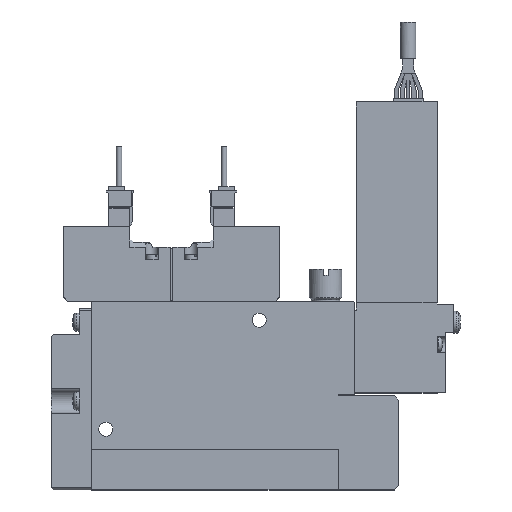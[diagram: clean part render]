
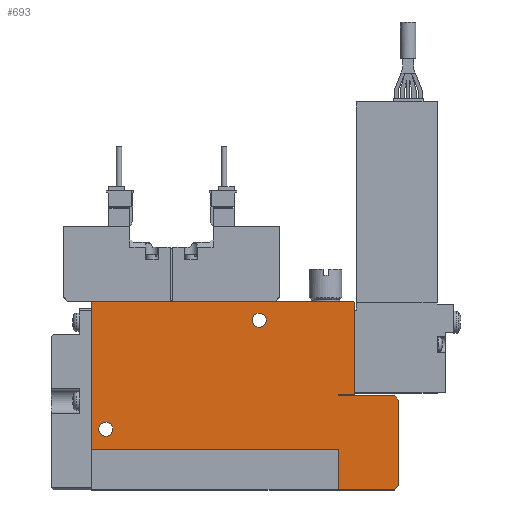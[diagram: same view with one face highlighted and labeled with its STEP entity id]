
A CAD part, top view. The second image highlights one B-rep face of the part: STEP entity #693.
In plain terms, the highlighted planar face has unit normal (0, 0, 1).
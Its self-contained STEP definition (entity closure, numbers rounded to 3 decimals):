
#693=ADVANCED_FACE('',(#1550,#1551,#1552),#1553,.F.);
#1550=FACE_OUTER_BOUND('',#2488,.T.);
#1551=FACE_BOUND('',#2489,.T.);
#1552=FACE_BOUND('',#2490,.T.);
#1553=PLANE('',#2491);
#2488=EDGE_LOOP('',(#5650,#5651,#5652,#5653,#5654,#5655,#5656,#5657,#5658,#5659,#5660,#5661,#5662,#5663));
#2489=EDGE_LOOP('',(#5664));
#2490=EDGE_LOOP('',(#5665));
#2491=AXIS2_PLACEMENT_3D('',#5666,#5667,#5668);
#5650=ORIENTED_EDGE('',*,*,#7099,.T.);
#5651=ORIENTED_EDGE('',*,*,#7048,.F.);
#5652=ORIENTED_EDGE('',*,*,#7030,.F.);
#5653=ORIENTED_EDGE('',*,*,#7102,.T.);
#5654=ORIENTED_EDGE('',*,*,#7066,.T.);
#5655=ORIENTED_EDGE('',*,*,#7009,.T.);
#5656=ORIENTED_EDGE('',*,*,#7103,.T.);
#5657=ORIENTED_EDGE('',*,*,#7063,.T.);
#5658=ORIENTED_EDGE('',*,*,#7072,.T.);
#5659=ORIENTED_EDGE('',*,*,#7074,.T.);
#5660=ORIENTED_EDGE('',*,*,#7013,.T.);
#5661=ORIENTED_EDGE('',*,*,#7069,.T.);
#5662=ORIENTED_EDGE('',*,*,#7055,.T.);
#5663=ORIENTED_EDGE('',*,*,#7101,.T.);
#5664=ORIENTED_EDGE('',*,*,#7104,.F.);
#5665=ORIENTED_EDGE('',*,*,#7006,.F.);
#5666=CARTESIAN_POINT('',(0.0,0.0,5.0));
#5667=DIRECTION('',(0.0,0.0,-1.0));
#5668=DIRECTION('',(0.0,-1.0,0.0));
#7006=EDGE_CURVE('',#8707,#8707,#8708,.T.);
#7009=EDGE_CURVE('',#8714,#8712,#8715,.T.);
#7013=EDGE_CURVE('',#8722,#8720,#8723,.T.);
#7030=EDGE_CURVE('',#8754,#8756,#8757,.T.);
#7048=EDGE_CURVE('',#8756,#8783,#8784,.T.);
#7055=EDGE_CURVE('',#8796,#8794,#8797,.T.);
#7063=EDGE_CURVE('',#8810,#8808,#8811,.T.);
#7066=EDGE_CURVE('',#8815,#8714,#8816,.T.);
#7069=EDGE_CURVE('',#8720,#8796,#8819,.T.);
#7072=EDGE_CURVE('',#8808,#8822,#8824,.T.);
#7074=EDGE_CURVE('',#8822,#8722,#8826,.T.);
#7099=EDGE_CURVE('',#8867,#8783,#8868,.T.);
#7101=EDGE_CURVE('',#8794,#8867,#8870,.T.);
#7102=EDGE_CURVE('',#8754,#8815,#8871,.T.);
#7103=EDGE_CURVE('',#8712,#8810,#8872,.T.);
#7104=EDGE_CURVE('',#8873,#8873,#8874,.T.);
#8707=VERTEX_POINT('',#11464);
#8708=CIRCLE('',#11465,1.75);
#8712=VERTEX_POINT('',#11470);
#8714=VERTEX_POINT('',#11473);
#8715=LINE('',#11474,#11475);
#8720=VERTEX_POINT('',#11482);
#8722=VERTEX_POINT('',#11485);
#8723=LINE('',#11486,#11487);
#8754=VERTEX_POINT('',#11528);
#8756=VERTEX_POINT('',#11531);
#8757=LINE('',#11532,#11533);
#8783=VERTEX_POINT('',#11575);
#8784=LINE('',#11576,#11577);
#8794=VERTEX_POINT('',#11592);
#8796=VERTEX_POINT('',#11595);
#8797=LINE('',#11596,#11597);
#8808=VERTEX_POINT('',#11612);
#8810=VERTEX_POINT('',#11615);
#8811=LINE('',#11616,#11617);
#8815=VERTEX_POINT('',#11623);
#8816=LINE('',#11624,#11625);
#8819=LINE('',#11630,#11631);
#8822=VERTEX_POINT('',#11635);
#8824=LINE('',#11638,#11639);
#8826=LINE('',#11642,#11643);
#8867=VERTEX_POINT('',#11698);
#8868=LINE('',#11699,#11700);
#8870=LINE('',#11703,#11704);
#8871=LINE('',#11705,#11706);
#8872=LINE('',#11707,#11708);
#8873=VERTEX_POINT('',#11709);
#8874=CIRCLE('',#11710,1.75);
#11464=CARTESIAN_POINT('',(43.25,42.0,5.0));
#11465=AXIS2_PLACEMENT_3D('',#13234,#13235,#13236);
#11470=CARTESIAN_POINT('',(76.0,22.25,5.0));
#11473=CARTESIAN_POINT('',(76.0,1.0,5.0));
#11474=CARTESIAN_POINT('',(76.0,1.0,5.0));
#11475=VECTOR('',#13239,1.0);
#11482=CARTESIAN_POINT('',(65.0,46.4,5.0));
#11485=CARTESIAN_POINT('',(65.0,23.5,5.0));
#11486=CARTESIAN_POINT('',(65.0,23.5,5.0));
#11487=VECTOR('',#13243,1.0);
#11528=CARTESIAN_POINT('',(61.1,0.0,5.0));
#11531=CARTESIAN_POINT('',(61.1,10.1,5.0));
#11532=CARTESIAN_POINT('',(61.1,0.0,5.0));
#11533=VECTOR('',#13270,1.0);
#11575=CARTESIAN_POINT('',(0.0,10.1,5.0));
#11576=CARTESIAN_POINT('',(61.1,10.1,5.0));
#11577=VECTOR('',#13290,1.0);
#11592=CARTESIAN_POINT('',(0.2,46.6,5.0));
#11595=CARTESIAN_POINT('',(64.8,46.6,5.0));
#11596=CARTESIAN_POINT('',(64.8,46.6,5.0));
#11597=VECTOR('',#13297,1.0);
#11612=CARTESIAN_POINT('',(61.0,23.25,5.0));
#11615=CARTESIAN_POINT('',(75.0,23.25,5.0));
#11616=CARTESIAN_POINT('',(75.0,23.25,5.0));
#11617=VECTOR('',#13309,1.0);
#11623=CARTESIAN_POINT('',(75.0,0.0,5.0));
#11624=CARTESIAN_POINT('',(75.0,0.0,5.0));
#11625=VECTOR('',#13312,1.0);
#11630=CARTESIAN_POINT('',(65.0,46.4,5.0));
#11631=VECTOR('',#13315,1.0);
#11635=CARTESIAN_POINT('',(61.0,23.5,5.0));
#11638=CARTESIAN_POINT('',(61.0,23.25,5.0));
#11639=VECTOR('',#13318,1.0);
#11642=CARTESIAN_POINT('',(61.0,23.5,5.0));
#11643=VECTOR('',#13320,1.0);
#11698=CARTESIAN_POINT('',(0.0,46.4,5.0));
#11699=CARTESIAN_POINT('',(0.0,46.4,5.0));
#11700=VECTOR('',#13365,1.0);
#11703=CARTESIAN_POINT('',(0.2,46.6,5.0));
#11704=VECTOR('',#13367,1.0);
#11705=CARTESIAN_POINT('',(0.0,0.0,5.0));
#11706=VECTOR('',#13368,1.0);
#11707=CARTESIAN_POINT('',(76.0,22.25,5.0));
#11708=VECTOR('',#13369,1.0);
#11709=CARTESIAN_POINT('',(5.25,15.0,5.0));
#11710=AXIS2_PLACEMENT_3D('',#13370,#13371,#13372);
#13234=CARTESIAN_POINT('',(41.5,42.0,5.0));
#13235=DIRECTION('',(0.0,0.0,1.0));
#13236=DIRECTION('',(1.0,0.0,0.0));
#13239=DIRECTION('',(0.0,1.0,0.0));
#13243=DIRECTION('',(0.0,1.0,0.0));
#13270=DIRECTION('',(0.0,1.0,0.0));
#13290=DIRECTION('',(-1.0,0.0,0.0));
#13297=DIRECTION('',(-1.0,0.0,0.0));
#13309=DIRECTION('',(-1.0,0.0,0.0));
#13312=DIRECTION('',(0.707,0.707,0.0));
#13315=DIRECTION('',(-0.707,0.707,0.0));
#13318=DIRECTION('',(0.0,1.0,0.0));
#13320=DIRECTION('',(1.0,0.,0.0));
#13365=DIRECTION('',(0.0,-1.0,0.0));
#13367=DIRECTION('',(-0.707,-0.707,0.0));
#13368=DIRECTION('',(1.0,0.0,0.0));
#13369=DIRECTION('',(-0.707,0.707,0.0));
#13370=CARTESIAN_POINT('',(3.5,15.0,5.0));
#13371=DIRECTION('',(0.0,0.0,1.0));
#13372=DIRECTION('',(1.0,0.0,0.0));
